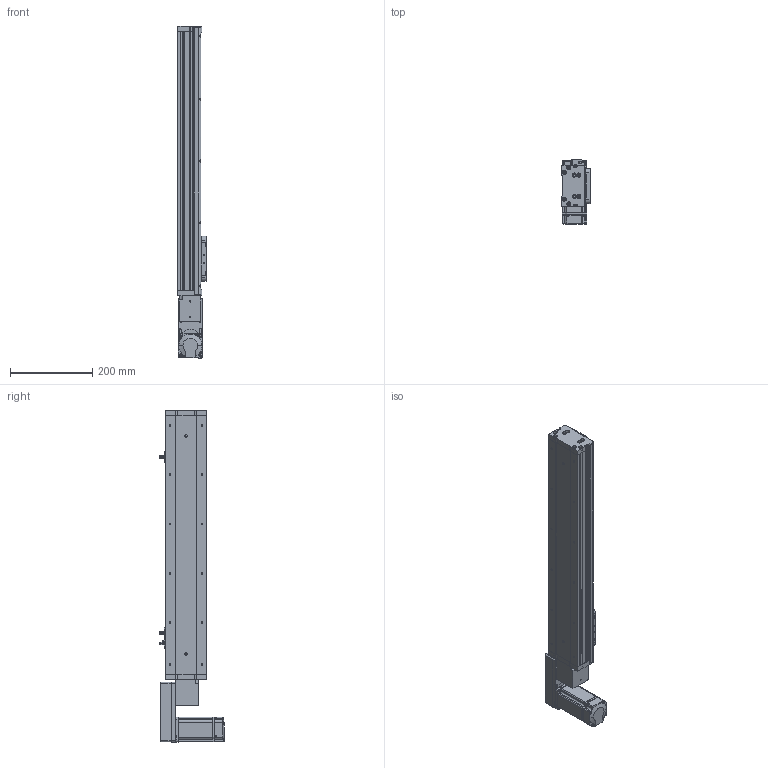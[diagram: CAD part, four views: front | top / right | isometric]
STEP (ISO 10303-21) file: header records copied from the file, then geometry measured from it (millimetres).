
FILE_DESCRIPTION (( 'STEP AP214' ), '1' );
FILE_NAME ('KSD100B-S450-MLB-CR.STEP', '2019-11-12T08:43:46', ( '微软用户' ), ( '微软中国' ), 'SwSTEP 2.0', 'SolidWorks 2014', '' );
FILE_SCHEMA (( 'AUTOMOTIVE_DESIGN' ));
Length unit declared in the file: millimetre
Products named in the file (15): KSD100B-S450-MLB-CR; 100宽马达安装板连板上下折丝杆同步带; 感应片100宽全封闭; U倰嫖萇EEㄜSX672; 100宽马达安装板同步带左; 100遵鎮湛假蚾啣蜊; 100宽端板同步带全封闭; 100宽滚珠螺姆安装板1防护罩; 100宽滚珠螺姆安装板1; 100遵裔啣揤啣; 100遵裔啣450俴最; 100宽侧板450行程同步带; 悵誘欶奻狟殏; 100宽底板全封闭450行程同步带; MHMD042G1CA_2_03
Assembly tree (18 placements, depth 2):
  KSD100B-S450-MLB-CR
    100宽底板全封闭450行程同步带
    100宽侧板450行程同步带  x2
    100遵裔啣450俴最
    100遵裔啣揤啣  x2
    100宽滚珠螺姆安装板1
    100宽滚珠螺姆安装板1防护罩
    100宽端板同步带全封闭
    100遵鎮湛假蚾啣蜊
    100宽马达安装板同步带左
    U倰嫖萇EEㄜSX672  x3
    感应片100宽全封闭
    100宽马达安装板连板上下折丝杆同步带
    悵誘欶奻狟殏
    MHMD042G1CA_2_03
Bounding box: 70 x 156.2 x 807 mm (x, y, z)
Volume: 1523427.7 mm3; surface area: 697816.2 mm2
Topology: 17 solids, 18 shells, 1689 faces, 4704 edges, 3035 vertices
Faces by surface type: cylinder 749, plane 733, cone 187, bspline 20
Entity records: 59664 total; most frequent: CARTESIAN_POINT 9036, DIRECTION 8150, ORIENTED_EDGE 7548, EDGE_CURVE 3846, AXIS2_PLACEMENT_3D 2927, VERTEX_POINT 2553, VECTOR 2296, LINE 2296
